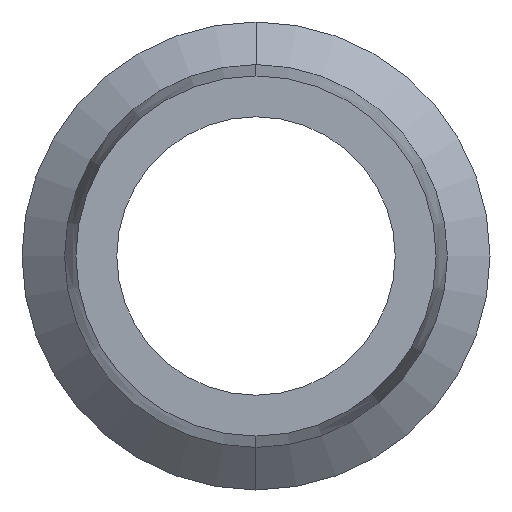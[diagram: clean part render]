
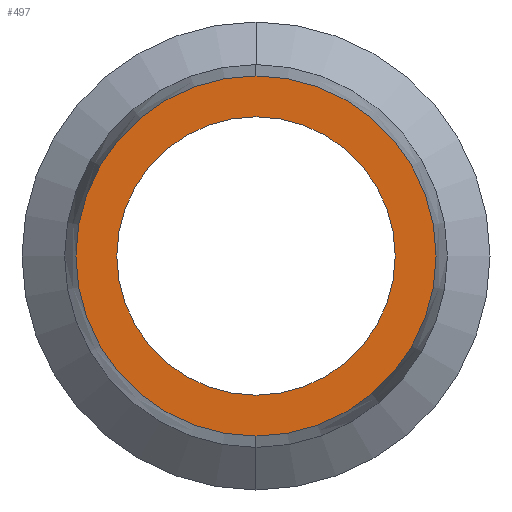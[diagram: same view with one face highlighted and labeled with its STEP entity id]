
A CAD part, left-side view. The second image highlights one B-rep face of the part: STEP entity #497.
In plain terms, the highlighted planar face has unit normal (-1, 0, 0).
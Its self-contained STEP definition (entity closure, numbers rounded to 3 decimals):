
#15 = ORIENTED_EDGE ( 'NONE', *, *, #184, .T. ) ;
#22 = AXIS2_PLACEMENT_3D ( 'NONE', #594, #106, #150 ) ;
#28 = EDGE_LOOP ( 'NONE', ( #15, #456 ) ) ;
#43 = DIRECTION ( 'NONE',  ( 0., 0., 1. ) ) ;
#54 = DIRECTION ( 'NONE',  ( 0., 0., -1. ) ) ;
#89 = AXIS2_PLACEMENT_3D ( 'NONE', #216, #458, #398 ) ;
#90 = CIRCLE ( 'NONE', #135, 10.35 ) ;
#106 = DIRECTION ( 'NONE',  ( -1., 0., 0. ) ) ;
#126 = EDGE_CURVE ( 'NONE', #733, #326, #374, .T. ) ;
#135 = AXIS2_PLACEMENT_3D ( 'NONE', #249, #491, #190 ) ;
#150 = DIRECTION ( 'NONE',  ( 0., 0., 1. ) ) ;
#176 = FACE_OUTER_BOUND ( 'NONE', #28, .T. ) ;
#184 = EDGE_CURVE ( 'NONE', #656, #357, #235, .T. ) ;
#190 = DIRECTION ( 'NONE',  ( 0., 0., 1. ) ) ;
#216 = CARTESIAN_POINT ( 'NONE',  ( -31.01, 0., 0. ) ) ;
#235 = CIRCLE ( 'NONE', #89, 10.35 ) ;
#249 = CARTESIAN_POINT ( 'NONE',  ( -31.01, 0., 0. ) ) ;
#264 = CARTESIAN_POINT ( 'NONE',  ( -31.01, 0., -8. ) ) ;
#300 = AXIS2_PLACEMENT_3D ( 'NONE', #675, #368, #54 ) ;
#326 = VERTEX_POINT ( 'NONE', #430 ) ;
#357 = VERTEX_POINT ( 'NONE', #615 ) ;
#359 = ORIENTED_EDGE ( 'NONE', *, *, #797, .F. ) ;
#368 = DIRECTION ( 'NONE',  ( 1., 0., 0. ) ) ;
#374 = CIRCLE ( 'NONE', #22, 8. ) ;
#398 = DIRECTION ( 'NONE',  ( 0., 0., 1. ) ) ;
#424 = PLANE ( 'NONE',  #300 ) ;
#430 = CARTESIAN_POINT ( 'NONE',  ( -31.01, 0., 8. ) ) ;
#456 = ORIENTED_EDGE ( 'NONE', *, *, #470, .T. ) ;
#458 = DIRECTION ( 'NONE',  ( -1., 0., 0. ) ) ;
#468 = CARTESIAN_POINT ( 'NONE',  ( -31.01, 0., 0. ) ) ;
#470 = EDGE_CURVE ( 'NONE', #357, #656, #90, .T. ) ;
#491 = DIRECTION ( 'NONE',  ( -1., 0., 0. ) ) ;
#497 = ADVANCED_FACE ( 'NONE', ( #498, #176 ), #424, .F. ) ;
#498 = FACE_BOUND ( 'NONE', #529, .T. ) ;
#529 = EDGE_LOOP ( 'NONE', ( #359, #708 ) ) ;
#594 = CARTESIAN_POINT ( 'NONE',  ( -31.01, 0., 0. ) ) ;
#615 = CARTESIAN_POINT ( 'NONE',  ( -31.01, 0., 10.35 ) ) ;
#622 = CIRCLE ( 'NONE', #730, 8. ) ;
#656 = VERTEX_POINT ( 'NONE', #714 ) ;
#675 = CARTESIAN_POINT ( 'NONE',  ( -31.01, 10.35, 0. ) ) ;
#708 = ORIENTED_EDGE ( 'NONE', *, *, #126, .F. ) ;
#714 = CARTESIAN_POINT ( 'NONE',  ( -31.01, 0., -10.35 ) ) ;
#724 = DIRECTION ( 'NONE',  ( -1., 0., 0. ) ) ;
#730 = AXIS2_PLACEMENT_3D ( 'NONE', #468, #724, #43 ) ;
#733 = VERTEX_POINT ( 'NONE', #264 ) ;
#797 = EDGE_CURVE ( 'NONE', #326, #733, #622, .T. ) ;
